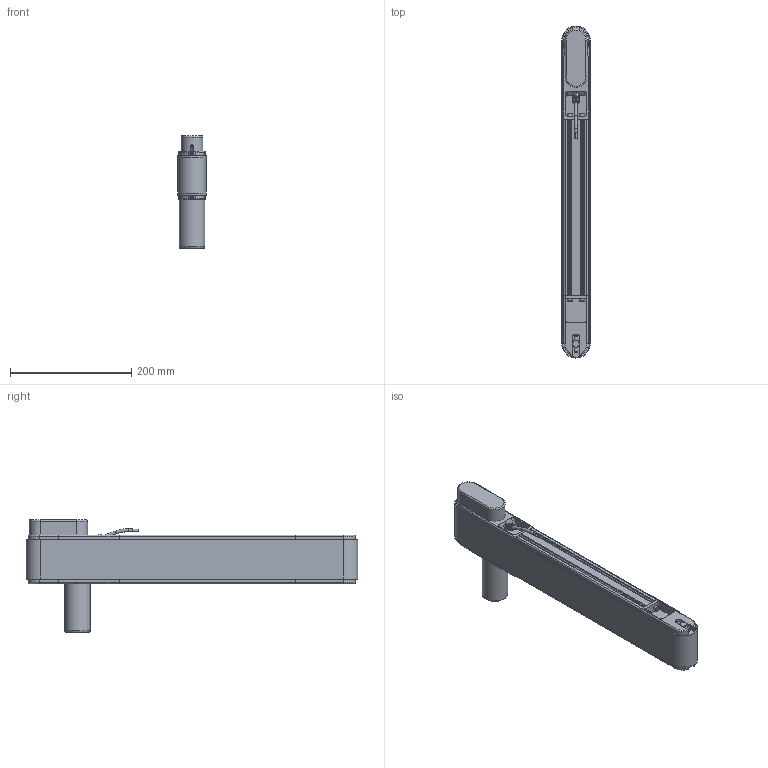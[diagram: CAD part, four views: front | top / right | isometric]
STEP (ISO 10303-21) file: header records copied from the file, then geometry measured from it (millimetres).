
FILE_DESCRIPTION(/* description */ (''),/* implementation_level */ '2;1');
FILE_NAME(/* name */ 'G:\DATEN\CAD\Förderband\Marketing\3D-Modelle (Standard)\FR-40-80-Q\FR-40-80-Q-500-K (Motorendrohr 80 mm).stp',/* time_stamp */ '2019-05-08T14:09:33+02:00',/* author */ ('melanie.ochs'),/* organization */ (''),/* preprocessor_version */ 'ST-DEVELOPER v17',/* originating_system */ 'Autodesk Inventor 2019',/* authorisation */ '');
FILE_SCHEMA (('CONFIG_CONTROL_DESIGN'));
Length unit declared in the file: centimetre
Products named in the file (1): FR-40-80-Q-500-K (Motorendrohr 80 mm)
Bounding box: 46.6 x 546.6 x 185 mm (x, y, z)
Volume: 1233153.4 mm3; surface area: 529013.7 mm2
Topology: 31 solids, 32 shells, 869 faces, 2364 edges, 1606 vertices
Faces by surface type: plane 438, cylinder 271, cone 68, bspline 61, torus 31
Full cylindrical faces by diameter (mm): 2 x2, 4 x6, 4.3 x4, 4.65 x1, 4.917 x2, 5 x11, 5.5 x8, 6 x2, 6.5 x1, 6.773 x1, 6.917 x2, 8 x7, 8.3 x8, 8.5 x8, 8.773 x1, 10 x1, 11 x1, 12 x3, 25 x2, 28 x4, 42 x2, 44 x2
Entity records: 29211 total; most frequent: CARTESIAN_POINT 6159, ORIENTED_EDGE 4692, DIRECTION 4543, EDGE_CURVE 2346, AXIS2_PLACEMENT_3D 1642, VERTEX_POINT 1606, LINE 1259, VECTOR 1259
